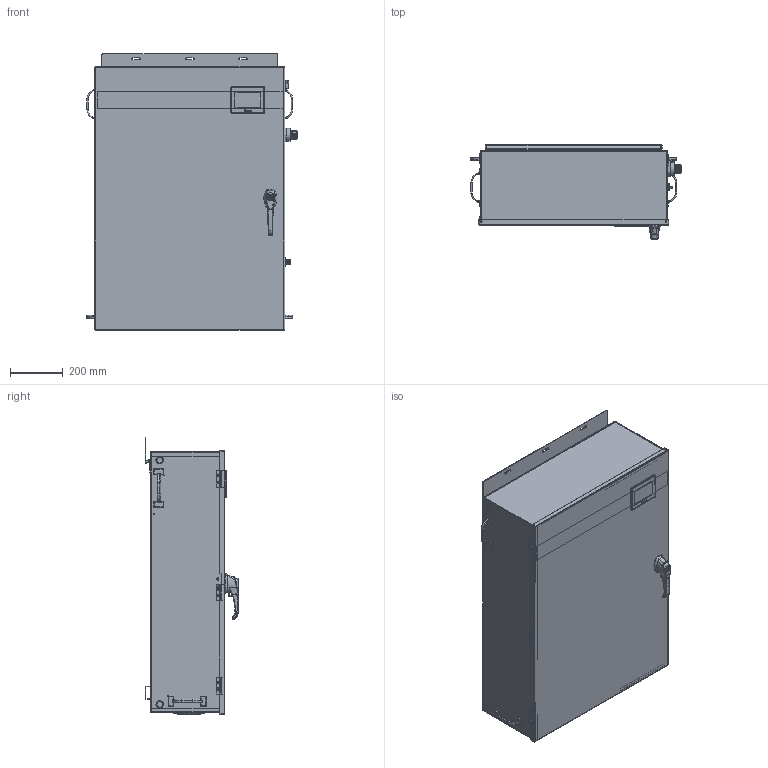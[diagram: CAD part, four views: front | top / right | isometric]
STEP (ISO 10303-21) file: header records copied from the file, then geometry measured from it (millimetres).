
FILE_DESCRIPTION(/* description */ (''),/* implementation_level */ '2;1');
FILE_NAME(/* name */ 'C:\Vault Local\Designs\CAD\Manufacturing\ECS Products\PGEN Nitrogen Generators\PGEN-10G\Export\AG-2000.stp',/* time_stamp */ '2021-08-06T14:42:04-05:00',/* author */ ('atroll'),/* organization */ (''),/* preprocessor_version */ 'ST-DEVELOPER v18.1',/* originating_system */ 'Autodesk Inventor 2020',/* authorisation */ '');
FILE_SCHEMA (('AUTOMOTIVE_DESIGN { 1 0 10303 214 3 1 1 }'));
Products named in the file (1): AG-2000_Shrinkwrap_1
Bounding box: 798.26 x 356.45 x 1049.21 mm (x, y, z)
Volume: 4995518.3 mm3; surface area: 5483856.1 mm2
Topology: 22 solids, 23 shells, 2956 faces, 8086 edges, 5182 vertices
Faces by surface type: plane 1344, cylinder 899, bspline 301, torus 189, cone 167, sphere 56
Full cylindrical faces by diameter (mm): 1.8 x16, 2 x2, 2.286 x6, 2.311 x8, 3.175 x3, 3.5 x3, 3.8 x2, 4.1 x3, 4.318 x16, 4.496 x8, 5 x1, 5.156 x4, 6.35 x7, 6.756 x4, 7.112 x2, 8 x2, 8.458 x6, 9.9 x1, 10 x1, 11.112 x9, 11.8 x1, 11.9 x2, 12 x1, 15.799 x1, 15.8 x1, 15.9 x1, 16 x1, 16.988 x14, 17.143 x2, 19 x1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
Entity records: 170474 total; most frequent: CARTESIAN_POINT 93365, ORIENTED_EDGE 16186, DIRECTION 14764, EDGE_CURVE 8093, AXIS2_PLACEMENT_3D 5304, VERTEX_POINT 5198, LINE 4156, VECTOR 4156
